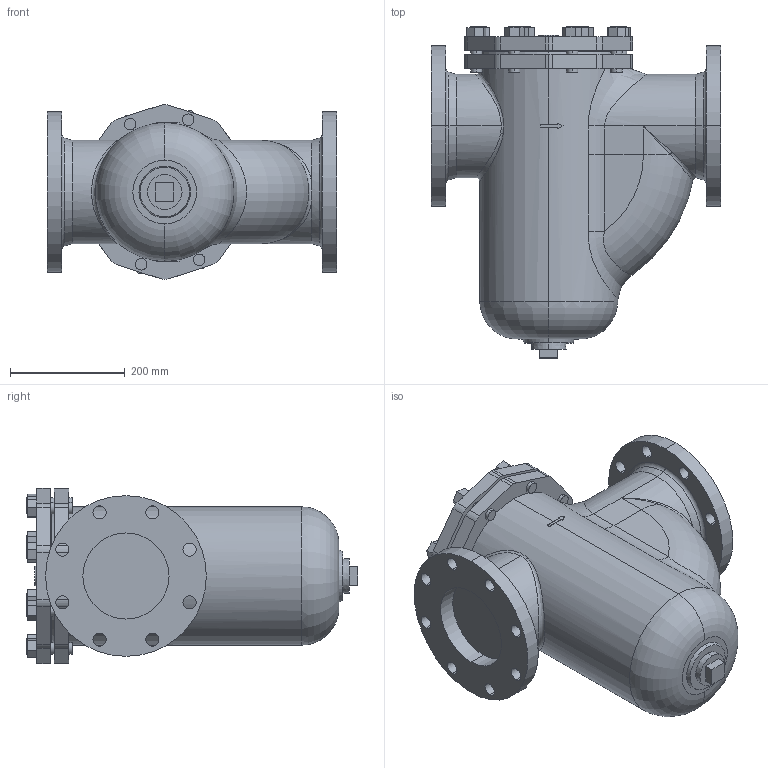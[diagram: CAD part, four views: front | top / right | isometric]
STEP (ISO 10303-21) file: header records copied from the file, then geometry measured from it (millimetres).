
FILE_DESCRIPTION (( 'STEP AP203' ), '1' );
FILE_NAME ('SU-20 150A.STEP', '2025-12-15T01:28:13', ( '' ), ( '' ), 'SwSTEP 2.0', 'SolidWorks 2024', '' );
FILE_SCHEMA (( 'CONFIG_CONTROL_DESIGN' ));
Length unit declared in the file: millimetre
Products named in the file (1): SU-20 150A
Bounding box: 505 x 578.1 x 304.97 mm (x, y, z)
Volume: 35715128.2 mm3; surface area: 977532.4 mm2
Topology: 1 solids, 1 shells, 290 faces, 744 edges, 483 vertices
Faces by surface type: plane 137, cylinder 125, cone 12, bspline 7, torus 7, sphere 2
Entity records: 11304 total; most frequent: CARTESIAN_POINT 3909, DIRECTION 1570, ORIENTED_EDGE 1484, EDGE_CURVE 742, AXIS2_PLACEMENT_3D 576, VERTEX_POINT 483, VECTOR 418, LINE 418
